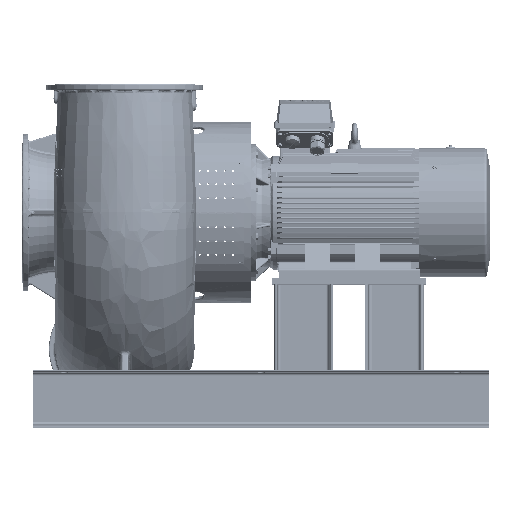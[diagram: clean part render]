
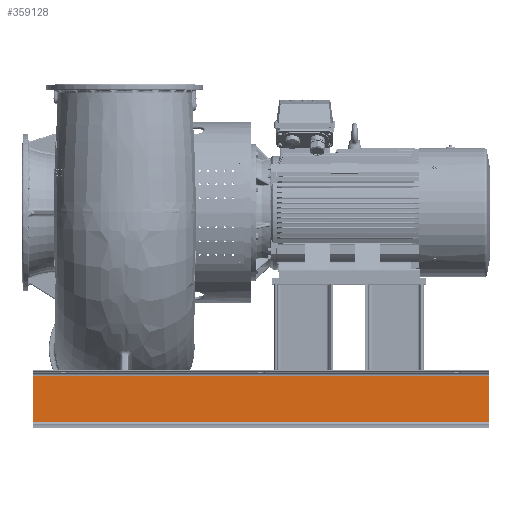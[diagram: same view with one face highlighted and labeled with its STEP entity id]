
A CAD part, top view. The second image highlights one B-rep face of the part: STEP entity #359128.
In plain terms, the highlighted planar face has unit normal (0, 0, 1) as drawn and (1, 0, 0) by its records, which use the part's own axes.
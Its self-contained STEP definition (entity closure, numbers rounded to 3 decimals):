
#350734=DIRECTION('',(0.,1.,0.));
#350735=VECTOR('',#350734,221.685);
#350736=CARTESIAN_POINT('',(845.,29.157,130.));
#350737=LINE('',#350736,#350735);
#353406=DIRECTION('',(0.,1.,0.));
#353407=VECTOR('',#353406,221.685);
#353408=CARTESIAN_POINT('',(845.,29.157,-2060.));
#353409=LINE('',#353408,#353407);
#353960=DIRECTION('',(0.,0.,-1.));
#353961=VECTOR('',#353960,2190.);
#353962=CARTESIAN_POINT('',(845.,29.157,130.));
#353963=LINE('',#353962,#353961);
#353964=DIRECTION('',(0.,0.,-1.));
#353965=VECTOR('',#353964,2190.);
#353966=CARTESIAN_POINT('',(845.,250.843,130.));
#353967=LINE('',#353966,#353965);
#354440=CARTESIAN_POINT('',(845.,29.157,130.));
#354441=VERTEX_POINT('',#354440);
#354442=CARTESIAN_POINT('',(845.,250.843,130.));
#354443=VERTEX_POINT('',#354442);
#354468=CARTESIAN_POINT('',(845.,29.157,-2060.));
#354469=VERTEX_POINT('',#354468);
#354470=CARTESIAN_POINT('',(845.,250.843,-2060.));
#354471=VERTEX_POINT('',#354470);
#359116=CARTESIAN_POINT('',(845.,29.157,130.));
#359117=DIRECTION('',(1.,0.,0.));
#359118=DIRECTION('',(0.,1.,0.));
#359119=AXIS2_PLACEMENT_3D('',#359116,#359117,#359118);
#359120=PLANE('',#359119);
#359121=ORIENTED_EDGE('',*,*,#355263,.T.);
#359123=ORIENTED_EDGE('',*,*,#359122,.T.);
#359124=ORIENTED_EDGE('',*,*,#358717,.F.);
#359125=ORIENTED_EDGE('',*,*,#359109,.F.);
#359126=EDGE_LOOP('',(#359121,#359123,#359124,#359125));
#359127=FACE_OUTER_BOUND('',#359126,.F.);
#359128=ADVANCED_FACE('',(#359127),#359120,.T.);
#355263=EDGE_CURVE('',#354441,#354443,#350737,.T.);
#358717=EDGE_CURVE('',#354469,#354471,#353409,.T.);
#359109=EDGE_CURVE('',#354441,#354469,#353963,.T.);
#359122=EDGE_CURVE('',#354443,#354471,#353967,.T.);
